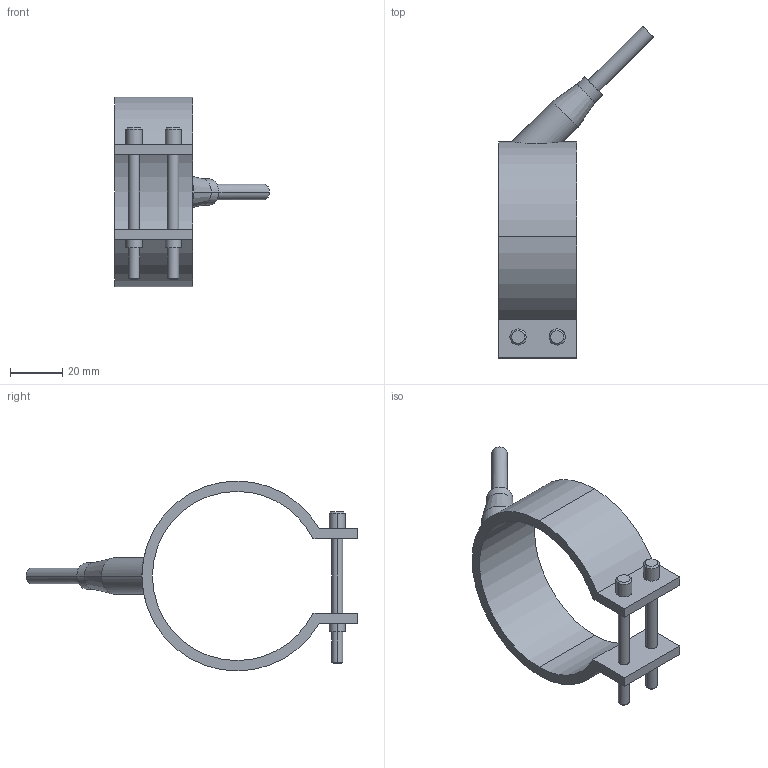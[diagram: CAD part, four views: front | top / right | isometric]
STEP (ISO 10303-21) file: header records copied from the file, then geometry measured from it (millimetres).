
FILE_DESCRIPTION(('CATIA V5 STEP Exchange'),'2;1');
FILE_NAME('C:\Users\Utente\Desktop\IO LAVORO\3D X SITO CF\X SITO\PLASTICA\RF1\29065030.stp','2021-03-27T09:48:40+00:00',('none'),('none'),'CATIA Version 5 Release 20 GA (IN-10)','CATIA V5 STEP AP203','none');
FILE_SCHEMA(('CONFIG_CONTROL_DESIGN'));
Length unit declared in the file: millimetre
Products named in the file (1): 29065030
Bounding box: 59.55 x 127.55 x 73 mm (x, y, z)
Volume: 32378.4 mm3; surface area: 17927.9 mm2
Topology: 1 solids, 1 shells, 54 faces, 126 edges, 82 vertices
Faces by surface type: cylinder 28, plane 16, cone 10
Entity records: 1752 total; most frequent: CARTESIAN_POINT 505, ORIENTED_EDGE 252, DIRECTION 213, EDGE_CURVE 126, AXIS2_PLACEMENT_3D 106, VERTEX_POINT 82, EDGE_LOOP 66, VECTOR 56
